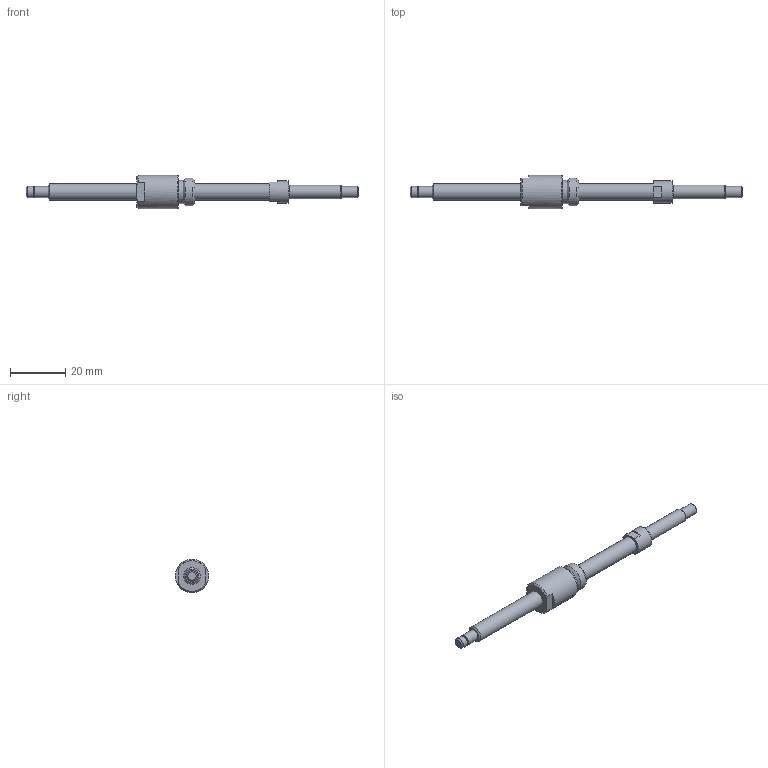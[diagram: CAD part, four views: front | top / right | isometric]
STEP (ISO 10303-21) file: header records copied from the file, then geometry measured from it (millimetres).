
FILE_DESCRIPTION(/* description */ ('STEP AP214'),/* implementation_level */ '2;1');
FILE_NAME(/* name */ 'NSG0602-077R120C5B0X(32)',/* time_stamp */ '2026-08-20T15:46:33+02:00',/* author */ ('License CC BY-ND 4.0'),/* organization */ ('CADENAS'),/* preprocessor_version */ 'ST-DEVELOPER v20',/* originating_system */ 'PARTsolutions',/* authorisation */ ' ');
FILE_SCHEMA (('AUTOMOTIVE_DESIGN {1 0 10303 214 3 1 1}'));
Length unit declared in the file: millimetre
Products named in the file (3): NSG0602-077R120C5B0X(32); NSG0602-77R120C3B_shaft; NSG0602_nut
Assembly tree (2 placements, depth 2):
  NSG0602-077R120C5B0X(32)
    NSG0602-77R120C3B_shaft
    NSG0602_nut
Bounding box: 120 x 12 x 12 mm (x, y, z)
Volume: 4633 mm3; surface area: 3554.2 mm2
Topology: 2 solids, 2 shells, 41 faces, 80 edges, 50 vertices
Faces by surface type: plane 19, cylinder 11, cone 10, torus 1
Full cylindrical faces by diameter (mm): 3.7 x1, 4 x3, 5 x1, 6 x2, 8 x1, 8.4 x1, 10 x1, 12 x1
Entity records: 1017 total; most frequent: DIRECTION 180, CARTESIAN_POINT 162, ORIENTED_EDGE 116, AXIS2_PLACEMENT_3D 82, EDGE_LOOP 70, FACE_BOUND 70, EDGE_CURVE 58, VERTEX_POINT 48
